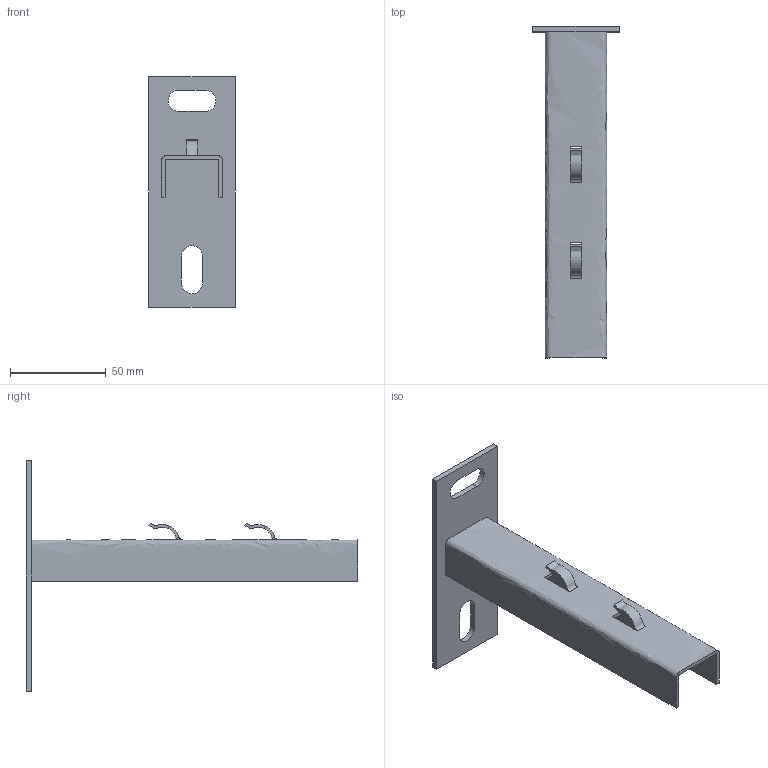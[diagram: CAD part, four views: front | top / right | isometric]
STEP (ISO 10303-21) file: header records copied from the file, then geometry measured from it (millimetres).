
FILE_DESCRIPTION(/* description */ (''),/* implementation_level */ '2;1');
FILE_NAME(/* name */ 'NPZM150',/* time_stamp */ '2013-11-22T10:23:41+01:00',/* author */ (''),/* organization */ (''),/* preprocessor_version */ 'ST-DEVELOPER v10',/* originating_system */ '',/* authorisation */ '');
FILE_SCHEMA (('AUTOMOTIVE_DESIGN_CC2'));
Length unit declared in the file: millimetre
Products named in the file (1): 1
Bounding box: 45 x 173 x 120 mm (x, y, z)
Volume: 36778.9 mm3; surface area: 36746.3 mm2
Topology: 4 solids, 4 shells, 52 faces, 140 edges, 96 vertices
Faces by surface type: bspline 42, plane 10
Entity records: 2472 total; most frequent: CARTESIAN_POINT 1617, ORIENTED_EDGE 264, EDGE_CURVE 132, VERTEX_POINT 88, B_SPLINE_CURVE_WITH_KNOTS 68, EDGE_LOOP 60, ADVANCED_FACE 52, FACE_OUTER_BOUND 52
